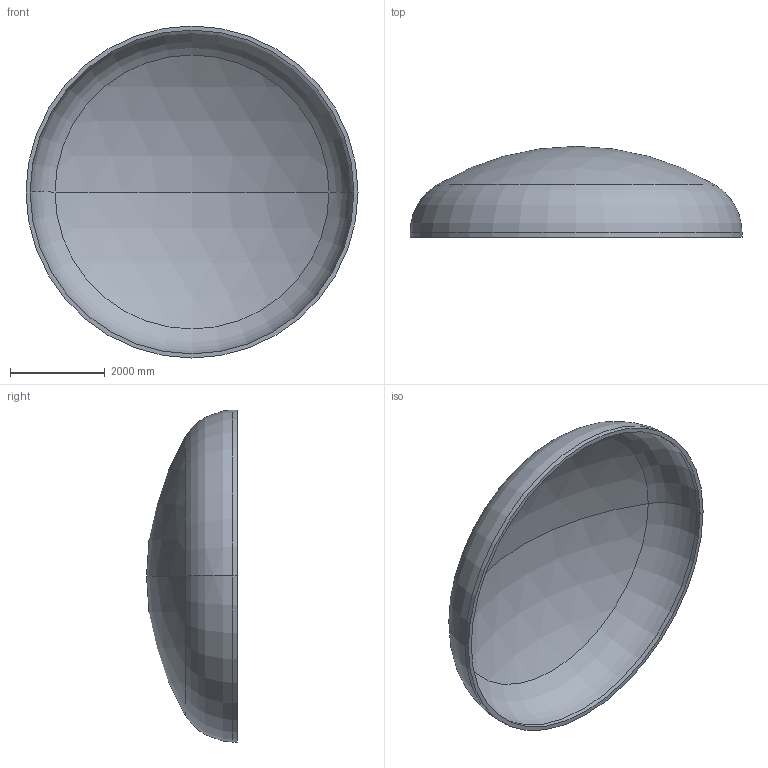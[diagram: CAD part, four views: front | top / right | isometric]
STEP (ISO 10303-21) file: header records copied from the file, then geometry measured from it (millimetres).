
FILE_DESCRIPTION (( 'STEP AP203' ), '1' );
FILE_NAME ('DIN 28013 Korbbogenform_-_Boden DIN 28013 - 7000 x 100 - I - s=88.step', '2016-07-04T10:49:32', ( '' ), ( '' ), 'SwSTEP 2.0', 'SolidWorks 2013', '' );
FILE_SCHEMA (( 'CONFIG_CONTROL_DESIGN' ));
Length unit declared in the file: millimetre
Products named in the file (1): DIN 28013 Korbbogenform_-_Boden DIN 28013 - 7000 x 100 - I - s=88
Bounding box: 7000 x 1916.03 x 7000 mm (x, y, z)
Volume: 4805911255.9 mm3; surface area: 111152325.7 mm2
Topology: 1 solids, 1 shells, 13 faces, 24 edges, 14 vertices
Faces by surface type: torus 4, cylinder 4, sphere 4, plane 1
Entity records: 407 total; most frequent: DIRECTION 72, CARTESIAN_POINT 52, ORIENTED_EDGE 48, AXIS2_PLACEMENT_3D 34, EDGE_CURVE 24, CIRCLE 20, VERTEX_POINT 14, EDGE_LOOP 14
